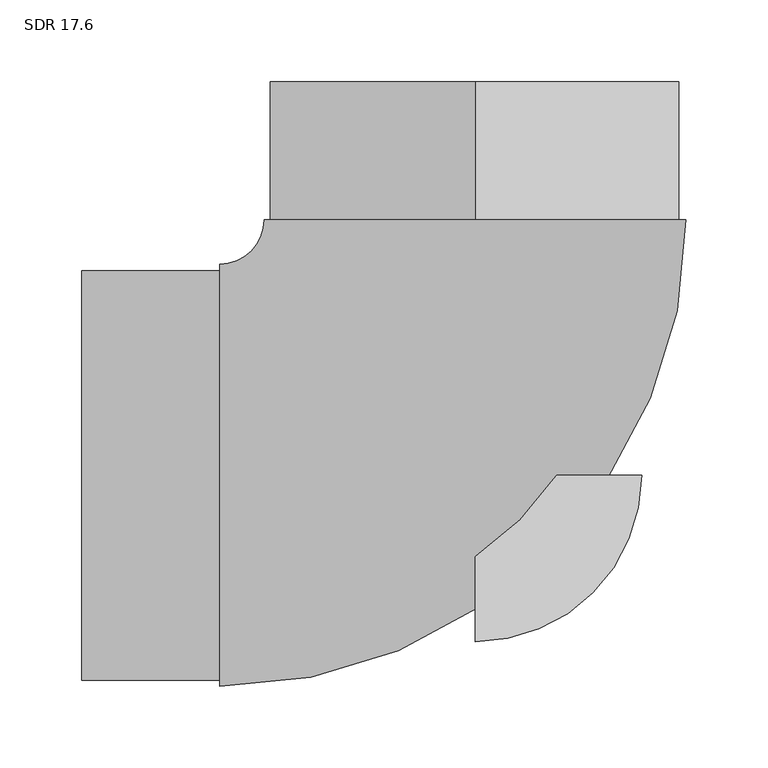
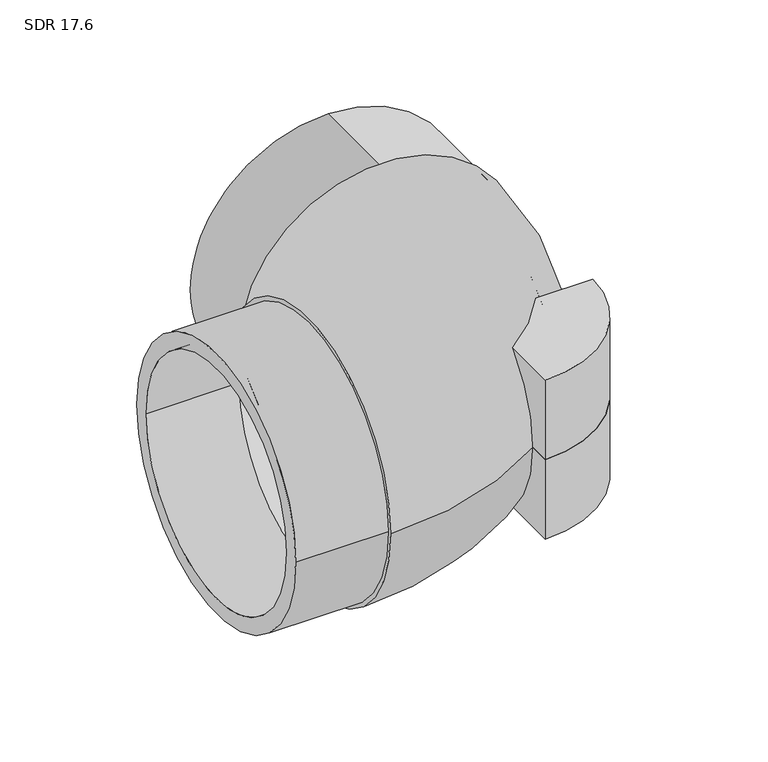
"""IFC4 building model written with IfcOpenShell, lengths in millimetres: pipe fitting geometry, Aquatherm - Elbow BW Molded : SDR 17.6."""

from ifc_helpers import new_model, si_unit, point, frame, frame_2d, origin, origin_with_axes, origin_2d, place, context, project, spatial, polyline, circle_curve, ellipse_curve, trimmed, segment, composite_curve, outline, extrude, source, transform, mapped, element, save
from ifc_brep_helpers import plane_surface, revolved_surface, advanced_brep


def sdr_17_6_ab8c902e(model_context):
    return source(origin(), model_context, "Body", "SolidModel", [
        extrude(outline(composite_curve([segment(polyline([(0.0, -101.6), (0.0, 0.0), (101.5999995, 0.0100552)]), True, "CONTINUOUS"), segment(trimmed(circle_curve(origin_2d(), 101.6), [point((101.5999995, 0.0100552))], [point((0.0, -101.6))], False, "CARTESIAN"), True, "CONTINUOUS")], self_intersect=False)), frame((0.0, 0.0, -76.2), z_axis=(0.0, 0.0, 1.0), x_axis=(1.0, 0.0, 0.0)), (0.0, 0.0, 1.0), 76.2),
        extrude(outline(composite_curve([segment(trimmed(circle_curve(origin_2d(), 101.6), [point((101.5999995, 0.0100552))], [point((0.0, -101.6))], False, "CARTESIAN"), True, "CONTINUOUS"), segment(polyline([(0.0, -101.6), (0.0, 0.0), (101.5999995, 0.0100552)]), True, "CONTINUOUS")], self_intersect=False)), origin_with_axes(), (0.0, 0.0, 1.0), 76.2),
        extrude(outline(composite_curve([segment(trimmed(circle_curve(frame_2d((0.0, -124.968)), 124.968), [point((0.0, -249.936))], [point((0.0, 0.0))], False, "CARTESIAN"), True, "CONTINUOUS"), segment(trimmed(circle_curve(frame_2d((0.0, -124.968)), 124.968), [point((0.0, 0.0))], [point((0.0, -249.936))], False, "CARTESIAN"), True, "CONTINUOUS")], self_intersect=False), holes=[composite_curve([segment(trimmed(circle_curve(frame_2d((0.0, -124.968)), 110.2658824), [point((0.0, -235.2338824))], [point((0.0, -14.7021176))], True, "CARTESIAN"), True, "CONTINUOUS"), segment(trimmed(circle_curve(frame_2d((0.0, -124.968)), 110.2658824), [point((0.0, -14.7021176))], [point((0.0, -235.2338824))], True, "CARTESIAN"), True, "CONTINUOUS")], self_intersect=False)]), frame((-0.0154411, 156.0194992, 124.968), z_axis=(-9.896884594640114e-05, 0.9999999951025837, 0.0), x_axis=(-0.9999999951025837, -9.896884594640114e-05, 0.0)), (0.0, 0.0, 1.0), 84.0105),
        extrude(outline(composite_curve([segment(trimmed(circle_curve(frame_2d((-0.1496481, 0.0)), 124.968), [point((124.8183519, 0.0))], [point((-125.1176481, 0.0))], False, "CARTESIAN"), True, "CONTINUOUS"), segment(trimmed(circle_curve(frame_2d((-0.1496481, 0.0)), 124.968), [point((-125.1176481, 0.0))], [point((124.8183519, 0.0))], False, "CARTESIAN"), True, "CONTINUOUS")], self_intersect=False), holes=[composite_curve([segment(trimmed(circle_curve(origin_2d(), 110.2658824), [point((110.2658824, 0.0))], [point((-110.2658824, 0.0))], True, "CARTESIAN"), True, "CONTINUOUS"), segment(trimmed(circle_curve(origin_2d(), 110.2658824), [point((-110.2658824, 0.0))], [point((110.2658824, 0.0))], True, "CARTESIAN"), True, "CONTINUOUS")], self_intersect=False)]), frame((-240.03, 0.0, 0.0), z_axis=(1.0, 0.0, 0.0), x_axis=(0.0, 1.0, 0.0)), (0.0, 0.0, 1.0), 84.0105),
        advanced_brep(
        [(-156.0195, -128.71704, 0.0), (-156.0195, 128.71704, 0.0), (-156.0195, -110.2658824, 0.0), (-156.0195, 110.2658824, 0.0), (128.7015983, 156.0322382, 0.0), (-128.7324804, 156.0067603, 0.0), (110.2504407, 156.0304121, 0.0), (-110.2813229, 156.0085863, 0.0)],
        [
            (0, 1, circle_curve(frame((-156.0195, 0.0, 0.0), z_axis=(-1.0, 0.0, 0.0), x_axis=(0.0, 1.0, 0.0)), 128.71704)),
            (1, 0, circle_curve(frame((-156.0195, 0.0, 0.0), z_axis=(-1.0, 0.0, 0.0), x_axis=(0.0, 1.0, 0.0)), 128.71704)),
            (2, 3, circle_curve(frame((-156.0195, 0.0, 0.0), z_axis=(1.0, 0.0, 0.0), x_axis=(0.0, 1.0, 0.0)), 110.2658824)),
            (3, 2, circle_curve(frame((-156.0195, 0.0, 0.0), z_axis=(1.0, 0.0, 0.0), x_axis=(0.0, 1.0, 0.0)), 110.2658824)),
            (4, 5, circle_curve(frame((-0.0154411, 156.0194992, 0.0), z_axis=(-9.896884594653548e-05, 0.9999999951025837, 0.0), x_axis=(-0.9999999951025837, -9.896884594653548e-05, 0.0)), 128.71704)),
            (5, 4, circle_curve(frame((-0.0154411, 156.0194992, 0.0), z_axis=(-9.896884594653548e-05, 0.9999999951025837, 0.0), x_axis=(-0.9999999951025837, -9.896884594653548e-05, 0.0)), 128.71704)),
            (6, 7, circle_curve(frame((-0.0154411, 156.0194992, 0.0), z_axis=(9.896884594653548e-05, -0.9999999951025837, 0.0), x_axis=(-0.9999999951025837, -9.896884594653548e-05, 0.0)), 110.2658824)),
            (7, 6, circle_curve(frame((-0.0154411, 156.0194992, 0.0), z_axis=(9.896884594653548e-05, -0.9999999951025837, 0.0), x_axis=(-0.9999999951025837, -9.896884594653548e-05, 0.0)), 110.2658824)),
            (5, 1, circle_curve(frame((-156.0195, 156.0040597, 0.0), z_axis=(0.0, 0.0, -1.0), x_axis=(0.0, -1.0, 0.0)), 27.2870197)),
            (0, 4, circle_curve(frame((-156.0195, 156.0040597, 0.0), z_axis=(0.0, 0.0, 1.0), x_axis=(0.0, -1.0, 0.0)), 284.7210997)),
            (7, 3, circle_curve(frame((-156.0195, 156.0040597, 0.0), z_axis=(0.0, 0.0, -1.0), x_axis=(0.0, -1.0, 0.0)), 45.7381773)),
            (2, 6, circle_curve(frame((-156.0195, 156.0040597, 0.0), z_axis=(0.0, 0.0, 1.0), x_axis=(0.0, -1.0, 0.0)), 266.269942)),
        ],
        [
            plane_surface(frame((-156.0195, 0.0, 0.0), z_axis=(-1.0, 0.0, 0.0), x_axis=(0.0, 0.0, 1.0))),
            plane_surface(frame((-0.0154411, 156.0194992, 0.0), z_axis=(-9.896884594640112e-05, 0.9999999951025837, 0.0), x_axis=(0.0, 0.0, 1.0))),
            revolved_surface(trimmed(ellipse_curve(frame((-156.0195, 0.0, 0.0), z_axis=(-1.0, 0.0, 0.0), x_axis=(0.0, 1.0, 0.0)), 128.71704, 128.71704), [point((-156.0195, -128.71704, 0.0))], [point((-156.0195, 128.71704, 0.0))], True, "CARTESIAN"), (-156.0195, 156.0040597, 0.0), (0.0, 0.0, 1.0)),
            revolved_surface(trimmed(ellipse_curve(frame((-156.0195, 0.0, 0.0), z_axis=(-1.0, 0.0, 0.0), x_axis=(0.0, 1.0, 0.0)), 128.71704, 128.71704), [point((-156.0195, 128.71704, 0.0))], [point((-156.0195, -128.71704, 0.0))], True, "CARTESIAN"), (-156.0195, 156.0040597, 0.0), (0.0, 0.0, 1.0)),
            revolved_surface(trimmed(ellipse_curve(frame((-156.0195, 0.0, 0.0), z_axis=(1.0, 0.0, 0.0), x_axis=(0.0, 1.0, 0.0)), 110.2658824, 110.2658824), [point((-156.0195, -110.2658824, 0.0))], [point((-156.0195, 110.2658824, 0.0))], True, "CARTESIAN"), (-156.0195, 156.0040597, 0.0), (0.0, 0.0, 1.0)),
            revolved_surface(trimmed(ellipse_curve(frame((-156.0195, 0.0, 0.0), z_axis=(1.0, 0.0, 0.0), x_axis=(0.0, 1.0, 0.0)), 110.2658824, 110.2658824), [point((-156.0195, 110.2658824, 0.0))], [point((-156.0195, -110.2658824, 0.0))], True, "CARTESIAN"), (-156.0195, 156.0040597, 0.0), (0.0, 0.0, 1.0)),
        ],
        [
            (0, [[1, 2], [3, 4]]),
            (1, [[5, 6], [7, 8]]),
            (2, [[9, -1, 10, -6]]),
            (3, [[-10, -2, -9, -5]]),
            (4, [[11, -3, 12, -8]]),
            (5, [[-12, -4, -11, -7]]),
        ],
    ),
    ])


if __name__ == "__main__":
    model = new_model("IFC4")
    model_context = context("Model", 3, world=origin())
    ifc_project = project(units=[si_unit("LENGTHUNIT", "METRE", prefix="MILLI")], contexts=[model_context])
    site = spatial("IfcSite", under=ifc_project)
    building = spatial("IfcBuilding", under=site)
    placement = place(None, origin())
    sdr_17_6_shape = sdr_17_6_ab8c902e(model_context)
    element("IfcPipeFitting", 1, ObjectType="Aquatherm - Elbow BW Molded : SDR 17.6", at=placement, inside=building, context=model_context, shape_type="MappedRepresentation", body=[
        mapped(sdr_17_6_shape, transform((0.0, 0.0, 0.0), x_axis=(1.0, 0.0, 0.0), y_axis=(0.0, 1.0, 0.0), z_axis=(0.0, 0.0, 1.0))),
    ])
    save(model, "model.ifc")
